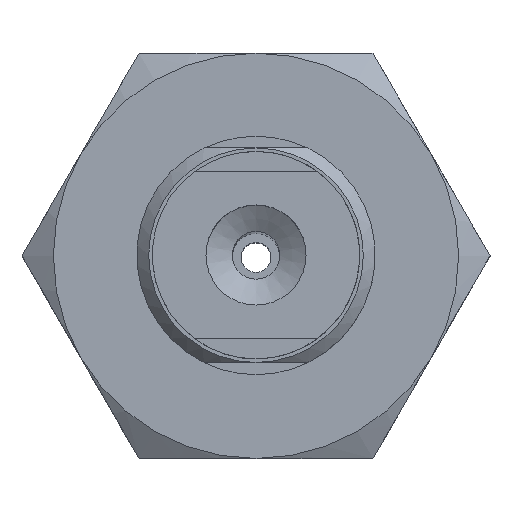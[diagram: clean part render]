
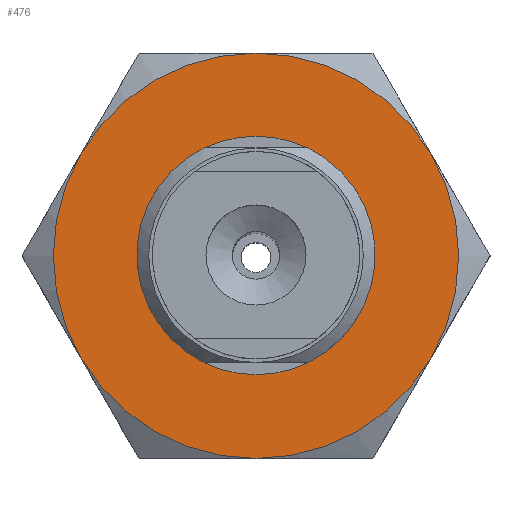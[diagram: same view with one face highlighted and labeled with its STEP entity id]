
A CAD part, top view. The second image highlights one B-rep face of the part: STEP entity #476.
In plain terms, the highlighted planar face has unit normal (0, 0, 1).
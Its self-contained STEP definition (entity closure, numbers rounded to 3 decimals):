
#476=ADVANCED_FACE('',(#717,#718),#719,.T.);
#717=FACE_BOUND('',#1201,.T.);
#718=FACE_OUTER_BOUND('',#1202,.T.);
#719=PLANE('',#1203);
#1201=EDGE_LOOP('',(#1845));
#1202=EDGE_LOOP('',(#1846,#1847,#1848,#1849,#1850,#1851));
#1203=AXIS2_PLACEMENT_3D('',#1852,#1853,#1854);
#1845=ORIENTED_EDGE('',*,*,#3078,.F.);
#1846=ORIENTED_EDGE('',*,*,#3079,.F.);
#1847=ORIENTED_EDGE('',*,*,#3072,.F.);
#1848=ORIENTED_EDGE('',*,*,#3048,.F.);
#1849=ORIENTED_EDGE('',*,*,#3051,.F.);
#1850=ORIENTED_EDGE('',*,*,#3080,.F.);
#1851=ORIENTED_EDGE('',*,*,#3081,.F.);
#1852=CARTESIAN_POINT('',(-9.815,-8.5,4.0));
#1853=DIRECTION('',(0.0,0.0,1.0));
#1854=DIRECTION('',(1.0,0.0,0.0));
#3048=EDGE_CURVE('',#3468,#3469,#3470,.T.);
#3051=EDGE_CURVE('',#3474,#3468,#3475,.T.);
#3072=EDGE_CURVE('',#3469,#3509,#3510,.T.);
#3078=EDGE_CURVE('',#3518,#3518,#3519,.T.);
#3079=EDGE_CURVE('',#3509,#3520,#3521,.T.);
#3080=EDGE_CURVE('',#3522,#3474,#3523,.T.);
#3081=EDGE_CURVE('',#3520,#3522,#3524,.T.);
#3468=VERTEX_POINT('',#4238);
#3469=VERTEX_POINT('',#4239);
#3470=CIRCLE('',#4240,8.5);
#3474=VERTEX_POINT('',#4252);
#3475=CIRCLE('',#4253,8.5);
#3509=VERTEX_POINT('',#4333);
#3510=CIRCLE('',#4334,8.5);
#3518=VERTEX_POINT('',#4359);
#3519=CIRCLE('',#4360,4.5);
#3520=VERTEX_POINT('',#4361);
#3521=CIRCLE('',#4362,8.5);
#3522=VERTEX_POINT('',#4363);
#3523=CIRCLE('',#4364,8.5);
#3524=CIRCLE('',#4365,8.5);
#4238=CARTESIAN_POINT('',(7.361,4.25,4.0));
#4239=CARTESIAN_POINT('',(7.361,-4.25,4.0));
#4240=AXIS2_PLACEMENT_3D('',#5537,#5538,#5539);
#4252=CARTESIAN_POINT('',(0.,8.5,4.0));
#4253=AXIS2_PLACEMENT_3D('',#5540,#5541,#5542);
#4333=CARTESIAN_POINT('',(0.,-8.5,4.0));
#4334=AXIS2_PLACEMENT_3D('',#5566,#5567,#5568);
#4359=CARTESIAN_POINT('',(0.0,-4.5,4.0));
#4360=AXIS2_PLACEMENT_3D('',#5570,#5571,#5572);
#4361=CARTESIAN_POINT('',(-7.361,-4.25,4.0));
#4362=AXIS2_PLACEMENT_3D('',#5573,#5574,#5575);
#4363=CARTESIAN_POINT('',(-7.361,4.25,4.0));
#4364=AXIS2_PLACEMENT_3D('',#5576,#5577,#5578);
#4365=AXIS2_PLACEMENT_3D('',#5579,#5580,#5581);
#5537=CARTESIAN_POINT('',(0.,0.,4.0));
#5538=DIRECTION('',(0.,0.,-1.0));
#5539=DIRECTION('',(0.866,0.5,0.));
#5540=CARTESIAN_POINT('',(0.,0.,4.0));
#5541=DIRECTION('',(0.,0.,-1.0));
#5542=DIRECTION('',(0.866,0.5,0.));
#5566=CARTESIAN_POINT('',(0.,0.,4.0));
#5567=DIRECTION('',(0.,0.,-1.0));
#5568=DIRECTION('',(0.866,0.5,0.));
#5570=CARTESIAN_POINT('',(0.0,0.0,4.0));
#5571=DIRECTION('',(0.0,0.,1.0));
#5572=DIRECTION('',(0.0,-1.0,0.));
#5573=CARTESIAN_POINT('',(0.,0.,4.0));
#5574=DIRECTION('',(0.,0.,-1.0));
#5575=DIRECTION('',(0.866,0.5,0.));
#5576=CARTESIAN_POINT('',(0.,0.,4.0));
#5577=DIRECTION('',(0.,0.,-1.0));
#5578=DIRECTION('',(0.866,0.5,0.));
#5579=CARTESIAN_POINT('',(0.,0.,4.0));
#5580=DIRECTION('',(0.,0.,-1.0));
#5581=DIRECTION('',(0.866,0.5,0.));
